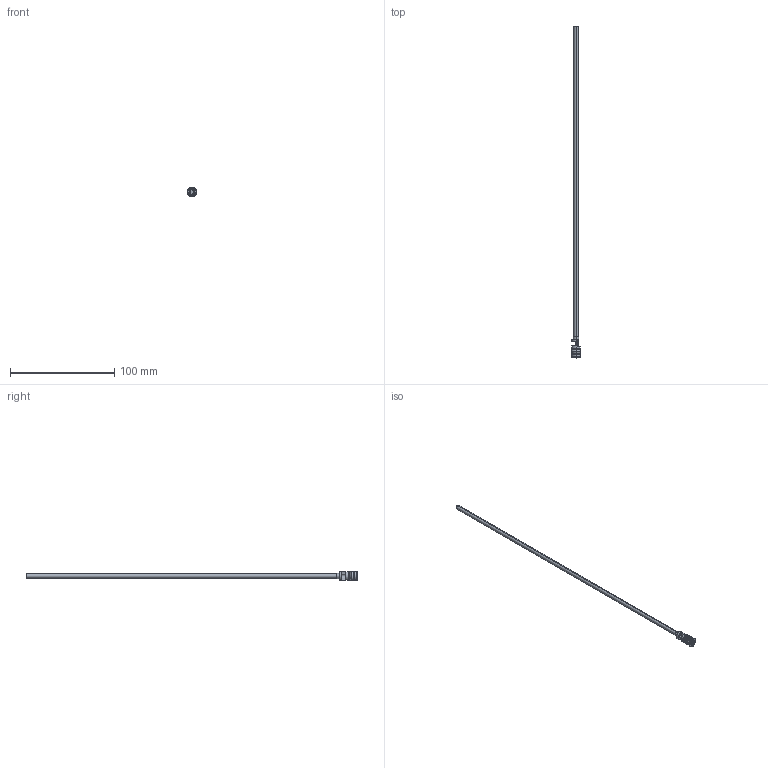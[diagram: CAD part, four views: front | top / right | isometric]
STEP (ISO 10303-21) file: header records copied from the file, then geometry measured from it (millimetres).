
FILE_DESCRIPTION (( 'STEP AP203' ), '1' );
FILE_NAME ('RF-8Fx300-4.STEP', '2015-11-25T08:55:03', ( 'Balzi' ), ( '' ), 'SwSTEP 2.0', 'SolidWorks 2015', '' );
FILE_SCHEMA (( 'CONFIG_CONTROL_DESIGN' ));
Length unit declared in the file: millimetre
Products named in the file (1): RF-8Fx300-4
Bounding box: 9 x 318 x 9 mm (x, y, z)
Volume: 1506.8 mm3; surface area: 7896.5 mm2
Topology: 1 solids, 1 shells, 77 faces, 176 edges, 108 vertices
Faces by surface type: cylinder 28, plane 25, torus 12, cone 12
Entity records: 2268 total; most frequent: DIRECTION 419, CARTESIAN_POINT 381, ORIENTED_EDGE 352, EDGE_CURVE 176, AXIS2_PLACEMENT_3D 170, VERTEX_POINT 108, CIRCLE 92, EDGE_LOOP 86
